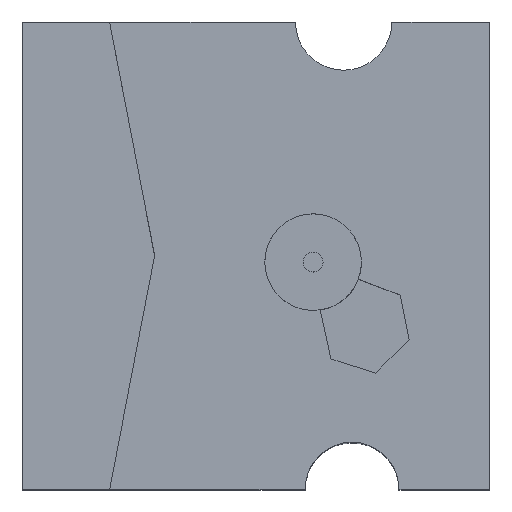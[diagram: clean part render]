
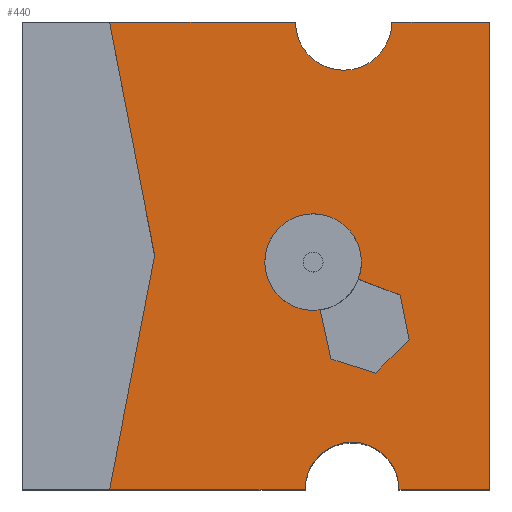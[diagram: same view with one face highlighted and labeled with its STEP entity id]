
A CAD part, top view. The second image highlights one B-rep face of the part: STEP entity #440.
In plain terms, the highlighted planar face has unit normal (0, 0, 1).
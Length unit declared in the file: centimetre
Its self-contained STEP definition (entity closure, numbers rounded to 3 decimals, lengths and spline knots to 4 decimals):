
#1 = CARTESIAN_POINT ( 'NONE',  ( 756.5768, 248.5773, 1000. ) ) ;
#5 = CARTESIAN_POINT ( 'NONE',  ( 518.8471, 486.1732, 1000. ) ) ;
#6 = VECTOR ( 'NONE', #1207, 100. ) ;
#9 = EDGE_LOOP ( 'NONE', ( #1223, #697, #442, #668, #724, #160, #1307, #487, #942 ) ) ;
#10 = EDGE_CURVE ( 'NONE', #888, #771, #104, .T. ) ;
#21 = DIRECTION ( 'NONE',  ( 0., 0., 1. ) ) ;
#44 = EDGE_CURVE ( 'NONE', #1334, #1026, #1198, .T. ) ;
#57 = EDGE_CURVE ( 'NONE', #1231, #319, #623, .T. ) ;
#69 = VERTEX_POINT ( 'NONE', #920 ) ;
#88 = LINE ( 'NONE', #194, #1236 ) ;
#89 = DIRECTION ( 'NONE',  ( 1., 0., 0. ) ) ;
#93 = VERTEX_POINT ( 'NONE', #738 ) ;
#95 = DIRECTION ( 'NONE',  ( -0.197, 0.98, 0. ) ) ;
#104 = LINE ( 'NONE', #913, #1330 ) ;
#111 = CARTESIAN_POINT ( 'NONE',  ( 806.0731, 0., 1000. ) ) ;
#122 = CARTESIAN_POINT ( 'NONE',  ( 637.2008, 383.8304, 1000. ) ) ;
#143 = DIRECTION ( 'NONE',  ( 1., 0., 0. ) ) ;
#155 = CIRCLE ( 'NONE', #520, 103.1591 ) ;
#160 = ORIENTED_EDGE ( 'NONE', *, *, #634, .T. ) ;
#188 = PLANE ( 'NONE',  #200 ) ;
#189 = LINE ( 'NONE', #597, #524 ) ;
#194 = CARTESIAN_POINT ( 'NONE',  ( 808.7187, 415.3988, 1000. ) ) ;
#197 = DIRECTION ( 'NONE',  ( -1., 0., 0. ) ) ;
#200 = AXIS2_PLACEMENT_3D ( 'NONE', #1328, #1118, #596 ) ;
#201 = CARTESIAN_POINT ( 'NONE',  ( 0., 0., 1000. ) ) ;
#205 = AXIS2_PLACEMENT_3D ( 'NONE', #1332, #519, #599 ) ;
#247 = ORIENTED_EDGE ( 'NONE', *, *, #952, .F. ) ;
#250 = EDGE_CURVE ( 'NONE', #687, #1140, #986, .T. ) ;
#255 = CARTESIAN_POINT ( 'NONE',  ( 756.5768, 248.5773, 1000. ) ) ;
#283 = CARTESIAN_POINT ( 'NONE',  ( 186.7261, 1000., 1000. ) ) ;
#286 = AXIS2_PLACEMENT_3D ( 'NONE', #486, #996, #361 ) ;
#302 = FACE_OUTER_BOUND ( 'NONE', #9, .T. ) ;
#311 = CARTESIAN_POINT ( 'NONE',  ( 827.8702, 319.8707, 1000. ) ) ;
#319 = VERTEX_POINT ( 'NONE', #255 ) ;
#325 = ORIENTED_EDGE ( 'NONE', *, *, #1171, .F. ) ;
#328 = DIRECTION ( 'NONE',  ( 1., 0., 0. ) ) ;
#346 = CARTESIAN_POINT ( 'NONE',  ( 622.2729, 486.1732, 1000. ) ) ;
#360 = DIRECTION ( 'NONE',  ( 0.189, 0.982, 0. ) ) ;
#361 = DIRECTION ( 'NONE',  ( 1., 0., 0. ) ) ;
#367 = ORIENTED_EDGE ( 'NONE', *, *, #395, .F. ) ;
#395 = EDGE_CURVE ( 'NONE', #69, #1334, #88, .T. ) ;
#396 = LINE ( 'NONE', #807, #625 ) ;
#397 = DIRECTION ( 'NONE',  ( 0.954, -0.298, 0. ) ) ;
#403 = DIRECTION ( 'NONE',  ( 0.707, 0.707, 0. ) ) ;
#412 = VECTOR ( 'NONE', #691, 100. ) ;
#440 = ADVANCED_FACE ( 'NONE', ( #302, #503 ), #188, .T. ) ;
#442 = ORIENTED_EDGE ( 'NONE', *, *, #842, .T. ) ;
#448 = EDGE_CURVE ( 'NONE', #1026, #829, #627, .T. ) ;
#458 = CARTESIAN_POINT ( 'NONE',  ( 283.1408, 500., 1000. ) ) ;
#486 = CARTESIAN_POINT ( 'NONE',  ( 622.2729, 486.1732, 1000. ) ) ;
#487 = ORIENTED_EDGE ( 'NONE', *, *, #1116, .T. ) ;
#489 = DIRECTION ( 'NONE',  ( -0.935, 0.355, 0. ) ) ;
#503 = FACE_BOUND ( 'NONE', #882, .T. ) ;
#504 = CARTESIAN_POINT ( 'NONE',  ( 186.7261, 1000., 1000. ) ) ;
#516 = ORIENTED_EDGE ( 'NONE', *, *, #902, .F. ) ;
#519 = DIRECTION ( 'NONE',  ( 0., 0., 1. ) ) ;
#520 = AXIS2_PLACEMENT_3D ( 'NONE', #926, #598, #717 ) ;
#524 = VECTOR ( 'NONE', #95, 100. ) ;
#544 = VERTEX_POINT ( 'NONE', #122 ) ;
#553 = CARTESIAN_POINT ( 'NONE',  ( 718.9664, 449.4685, 1000. ) ) ;
#573 = LINE ( 'NONE', #781, #734 ) ;
#579 = CARTESIAN_POINT ( 'NONE',  ( 605.1164, 0., 1000. ) ) ;
#581 = VERTEX_POINT ( 'NONE', #458 ) ;
#590 = DIRECTION ( 'NONE',  ( -1., 0., 0. ) ) ;
#596 = DIRECTION ( 'NONE',  ( 1., 0., 0. ) ) ;
#597 = CARTESIAN_POINT ( 'NONE',  ( 827.8702, 319.8707, 1000. ) ) ;
#598 = DIRECTION ( 'NONE',  ( 0., 0., -1. ) ) ;
#599 = DIRECTION ( 'NONE',  ( 1., 0., 0. ) ) ;
#609 = ORIENTED_EDGE ( 'NONE', *, *, #448, .F. ) ;
#619 = EDGE_CURVE ( 'NONE', #620, #581, #1295, .T. ) ;
#620 = VERTEX_POINT ( 'NONE', #1196 ) ;
#621 = CARTESIAN_POINT ( 'NONE',  ( 584.4778, 1000., 1000. ) ) ;
#623 = LINE ( 'NONE', #1324, #1006 ) ;
#625 = VECTOR ( 'NONE', #1221, 100. ) ;
#627 = CIRCLE ( 'NONE', #846, 103.4257 ) ;
#634 = EDGE_CURVE ( 'NONE', #93, #950, #573, .T. ) ;
#636 = AXIS2_PLACEMENT_3D ( 'NONE', #1092, #1302, #590 ) ;
#668 = ORIENTED_EDGE ( 'NONE', *, *, #250, .T. ) ;
#675 = ORIENTED_EDGE ( 'NONE', *, *, #825, .F. ) ;
#687 = VERTEX_POINT ( 'NONE', #579 ) ;
#689 = DIRECTION ( 'NONE',  ( 0., 1., 0. ) ) ;
#691 = DIRECTION ( 'NONE',  ( -0.189, 0.982, 0. ) ) ;
#692 = VECTOR ( 'NONE', #89, 100. ) ;
#697 = ORIENTED_EDGE ( 'NONE', *, *, #619, .F. ) ;
#717 = DIRECTION ( 'NONE',  ( -1., 0., 0. ) ) ;
#724 = ORIENTED_EDGE ( 'NONE', *, *, #1283, .T. ) ;
#732 = EDGE_CURVE ( 'NONE', #950, #1036, #994, .T. ) ;
#734 = VECTOR ( 'NONE', #689, 100. ) ;
#738 = CARTESIAN_POINT ( 'NONE',  ( 1000., 0., 1000. ) ) ;
#747 = LINE ( 'NONE', #1246, #976 ) ;
#761 = CIRCLE ( 'NONE', #286, 103.4257 ) ;
#770 = VERTEX_POINT ( 'NONE', #311 ) ;
#771 = VERTEX_POINT ( 'NONE', #504 ) ;
#781 = CARTESIAN_POINT ( 'NONE',  ( 1000., 1000., 1000. ) ) ;
#806 = LINE ( 'NONE', #201, #692 ) ;
#807 = CARTESIAN_POINT ( 'NONE',  ( 637.2008, 383.8304, 1000. ) ) ;
#814 = LINE ( 'NONE', #1, #934 ) ;
#825 = EDGE_CURVE ( 'NONE', #319, #770, #814, .T. ) ;
#829 = VERTEX_POINT ( 'NONE', #5 ) ;
#842 = EDGE_CURVE ( 'NONE', #620, #687, #806, .T. ) ;
#846 = AXIS2_PLACEMENT_3D ( 'NONE', #346, #21, #143 ) ;
#867 = VECTOR ( 'NONE', #360, 100. ) ;
#882 = EDGE_LOOP ( 'NONE', ( #325, #247, #609, #1299, #367, #516, #675, #1229 ) ) ;
#888 = VERTEX_POINT ( 'NONE', #621 ) ;
#892 = CARTESIAN_POINT ( 'NONE',  ( 283.1408, 500., 1000. ) ) ;
#902 = EDGE_CURVE ( 'NONE', #770, #69, #189, .T. ) ;
#913 = CARTESIAN_POINT ( 'NONE',  ( 0., 1000., 1000. ) ) ;
#920 = CARTESIAN_POINT ( 'NONE',  ( 808.7187, 415.3988, 1000. ) ) ;
#926 = CARTESIAN_POINT ( 'NONE',  ( 687.6368, 1000., 1000. ) ) ;
#934 = VECTOR ( 'NONE', #403, 100. ) ;
#942 = ORIENTED_EDGE ( 'NONE', *, *, #10, .T. ) ;
#950 = VERTEX_POINT ( 'NONE', #1191 ) ;
#952 = EDGE_CURVE ( 'NONE', #829, #544, #761, .T. ) ;
#976 = VECTOR ( 'NONE', #328, 100. ) ;
#983 = CARTESIAN_POINT ( 'NONE',  ( 725.6986, 486.1732, 1000. ) ) ;
#986 = CIRCLE ( 'NONE', #636, 100.4784 ) ;
#994 = LINE ( 'NONE', #1289, #6 ) ;
#996 = DIRECTION ( 'NONE',  ( 0., 0., 1. ) ) ;
#1006 = VECTOR ( 'NONE', #397, 100. ) ;
#1012 = EDGE_CURVE ( 'NONE', #581, #771, #1209, .T. ) ;
#1026 = VERTEX_POINT ( 'NONE', #983 ) ;
#1036 = VERTEX_POINT ( 'NONE', #1215 ) ;
#1092 = CARTESIAN_POINT ( 'NONE',  ( 705.5948, 0., 1000. ) ) ;
#1116 = EDGE_CURVE ( 'NONE', #1036, #888, #155, .T. ) ;
#1118 = DIRECTION ( 'NONE',  ( 0., 0., 1. ) ) ;
#1140 = VERTEX_POINT ( 'NONE', #111 ) ;
#1171 = EDGE_CURVE ( 'NONE', #544, #1231, #396, .T. ) ;
#1191 = CARTESIAN_POINT ( 'NONE',  ( 1000., 1000., 1000. ) ) ;
#1196 = CARTESIAN_POINT ( 'NONE',  ( 186.7261, 0., 1000. ) ) ;
#1198 = CIRCLE ( 'NONE', #205, 103.4257 ) ;
#1207 = DIRECTION ( 'NONE',  ( -1., 0., 0. ) ) ;
#1209 = LINE ( 'NONE', #283, #412 ) ;
#1215 = CARTESIAN_POINT ( 'NONE',  ( 790.7959, 1000., 1000. ) ) ;
#1221 = DIRECTION ( 'NONE',  ( 0.214, -0.977, 0. ) ) ;
#1223 = ORIENTED_EDGE ( 'NONE', *, *, #1012, .F. ) ;
#1229 = ORIENTED_EDGE ( 'NONE', *, *, #57, .F. ) ;
#1231 = VERTEX_POINT ( 'NONE', #1261 ) ;
#1236 = VECTOR ( 'NONE', #489, 100. ) ;
#1246 = CARTESIAN_POINT ( 'NONE',  ( 0., 0., 1000. ) ) ;
#1261 = CARTESIAN_POINT ( 'NONE',  ( 660.2624, 278.6814, 1000. ) ) ;
#1283 = EDGE_CURVE ( 'NONE', #1140, #93, #747, .T. ) ;
#1289 = CARTESIAN_POINT ( 'NONE',  ( 0., 1000., 1000. ) ) ;
#1295 = LINE ( 'NONE', #892, #867 ) ;
#1299 = ORIENTED_EDGE ( 'NONE', *, *, #44, .F. ) ;
#1302 = DIRECTION ( 'NONE',  ( 0., 0., -1. ) ) ;
#1307 = ORIENTED_EDGE ( 'NONE', *, *, #732, .T. ) ;
#1324 = CARTESIAN_POINT ( 'NONE',  ( 660.2624, 278.6814, 1000. ) ) ;
#1328 = CARTESIAN_POINT ( 'NONE',  ( 0., 0., 1000. ) ) ;
#1330 = VECTOR ( 'NONE', #197, 100. ) ;
#1332 = CARTESIAN_POINT ( 'NONE',  ( 622.2729, 486.1732, 1000. ) ) ;
#1334 = VERTEX_POINT ( 'NONE', #553 ) ;
